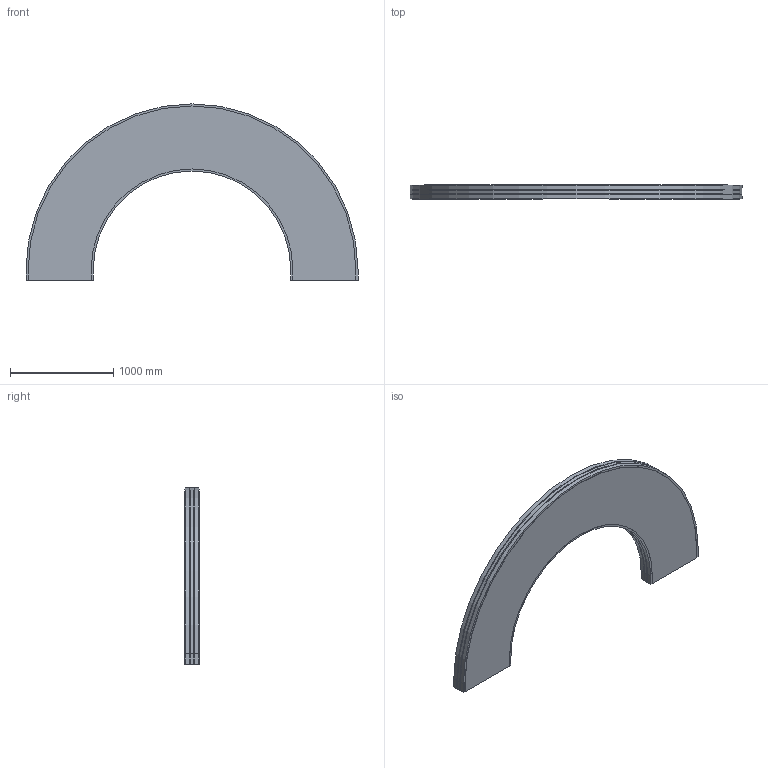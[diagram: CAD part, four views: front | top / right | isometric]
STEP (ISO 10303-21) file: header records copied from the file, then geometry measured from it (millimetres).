
FILE_DESCRIPTION (( 'STEP AP214' ), '1' );
FILE_NAME ('02.150H18.650.N FS-MTC-150 Bocht horizontaal 180°.STEP', '2013-03-29T11:19:43', ( 'Gebruiker' ), ( '' ), 'SwSTEP 2.0', 'SolidWorks 2012', '' );
FILE_SCHEMA (( 'AUTOMOTIVE_DESIGN' ));
Length unit declared in the file: millimetre
Products named in the file (1): 02.150H18.650.N FS-MTC-150 Bocht horizontaal 180°
Bounding box: 3210.5 x 136 x 1705.25 mm (x, y, z)
Volume: 371002549.6 mm3; surface area: 7187256.3 mm2
Topology: 1 solids, 1 shells, 58 faces, 168 edges, 112 vertices
Faces by surface type: plane 44, cylinder 14
Entity records: 1934 total; most frequent: CARTESIAN_POINT 339, ORIENTED_EDGE 336, DIRECTION 314, EDGE_CURVE 168, VECTOR 140, LINE 140, VERTEX_POINT 112, AXIS2_PLACEMENT_3D 87
